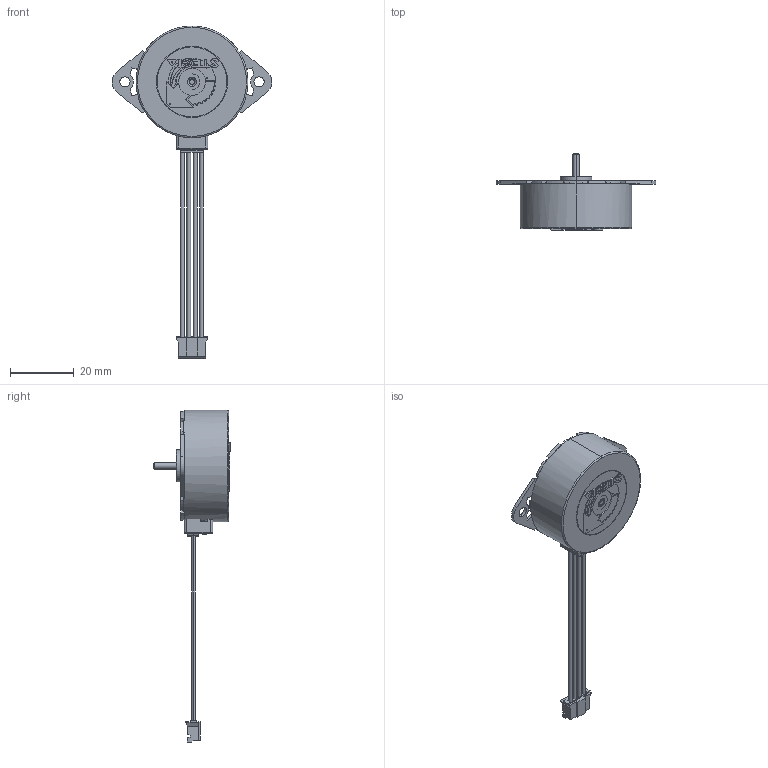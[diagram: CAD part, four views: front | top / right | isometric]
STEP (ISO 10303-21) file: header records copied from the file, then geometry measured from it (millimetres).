
FILE_DESCRIPTION (( 'STEP AP214' ), '1' );
FILE_NAME ('35SxxBxxxx.STEP', '2015-09-02T17:32:51', ( 'David' ), ( '' ), 'SwSTEP 2.0', 'SolidWorks 2015', '' );
FILE_SCHEMA (( 'AUTOMOTIVE_DESIGN' ));
Length unit declared in the file: millimetre
Products named in the file (1): 35SxxBxxxx
Bounding box: 50 x 23.9 x 104 mm (x, y, z)
Volume: 15173.6 mm3; surface area: 7404.3 mm2
Topology: 5 solids, 5 shells, 678 faces, 1795 edges, 1166 vertices
Faces by surface type: plane 471, cylinder 168, bspline 27, torus 10, cone 2
Entity records: 24009 total; most frequent: CARTESIAN_POINT 4142, ORIENTED_EDGE 3590, DIRECTION 3454, EDGE_CURVE 1795, LINE 1322, VECTOR 1322, VERTEX_POINT 1166, AXIS2_PLACEMENT_3D 1066
